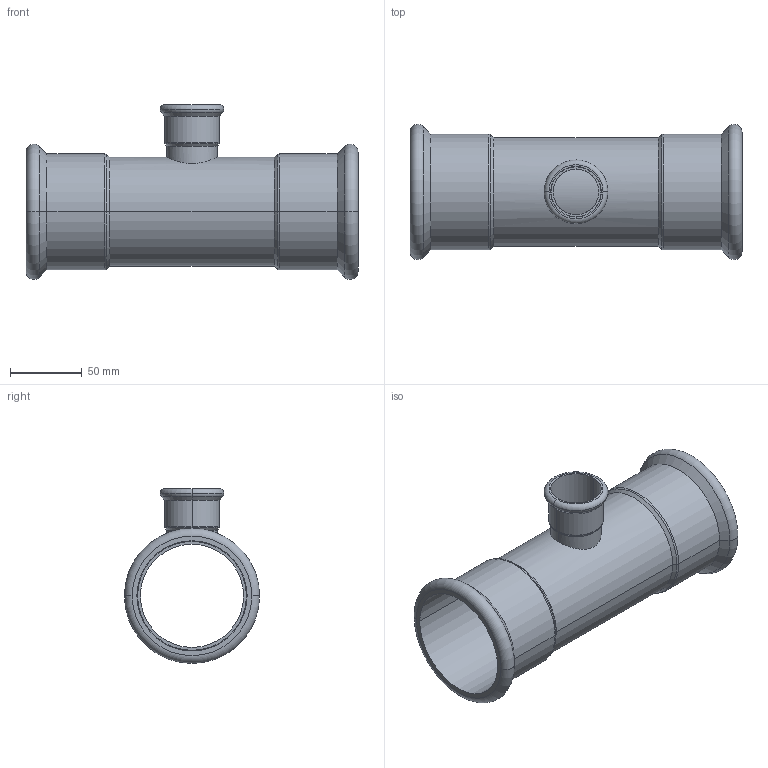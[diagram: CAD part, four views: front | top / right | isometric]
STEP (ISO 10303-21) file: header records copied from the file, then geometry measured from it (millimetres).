
FILE_DESCRIPTION(('CoCreate Modeling STEP Export'),'2;1');
FILE_NAME('C1415 76.1x35x76.1.stp','2014-11-12T10:49:18',(''),(''),'CoCreate Modeling STEP processor for AP214 (Solid Model)','CoCreate Modeling 17.00A 17-Jun-2010 (C) Parametric Technology GmbH','');
FILE_SCHEMA(('AUTOMOTIVE_DESIGN { 1 0 10303 214 1 1 1 1 }'));
Length unit declared in the file: millimetre
Products named in the file (2): C1415_76x35x76
Assembly tree (1 placements, depth 2):
  C1415_76x35x76
    C1415_76x35x76
Bounding box: 232 x 94.48 x 122.24 mm (x, y, z)
Volume: 159008.1 mm3; surface area: 128656.9 mm2
Topology: 1 solids, 1 shells, 62 faces, 126 edges, 74 vertices
Faces by surface type: cylinder 27, torus 14, cone 12, plane 9
Entity records: 2549 total; most frequent: CARTESIAN_POINT 1386, ORIENTED_EDGE 252, DIRECTION 208, EDGE_CURVE 126, AXIS2_PLACEMENT_3D 85, VERTEX_POINT 74, EDGE_LOOP 72, FACE_OUTER_BOUND 62
